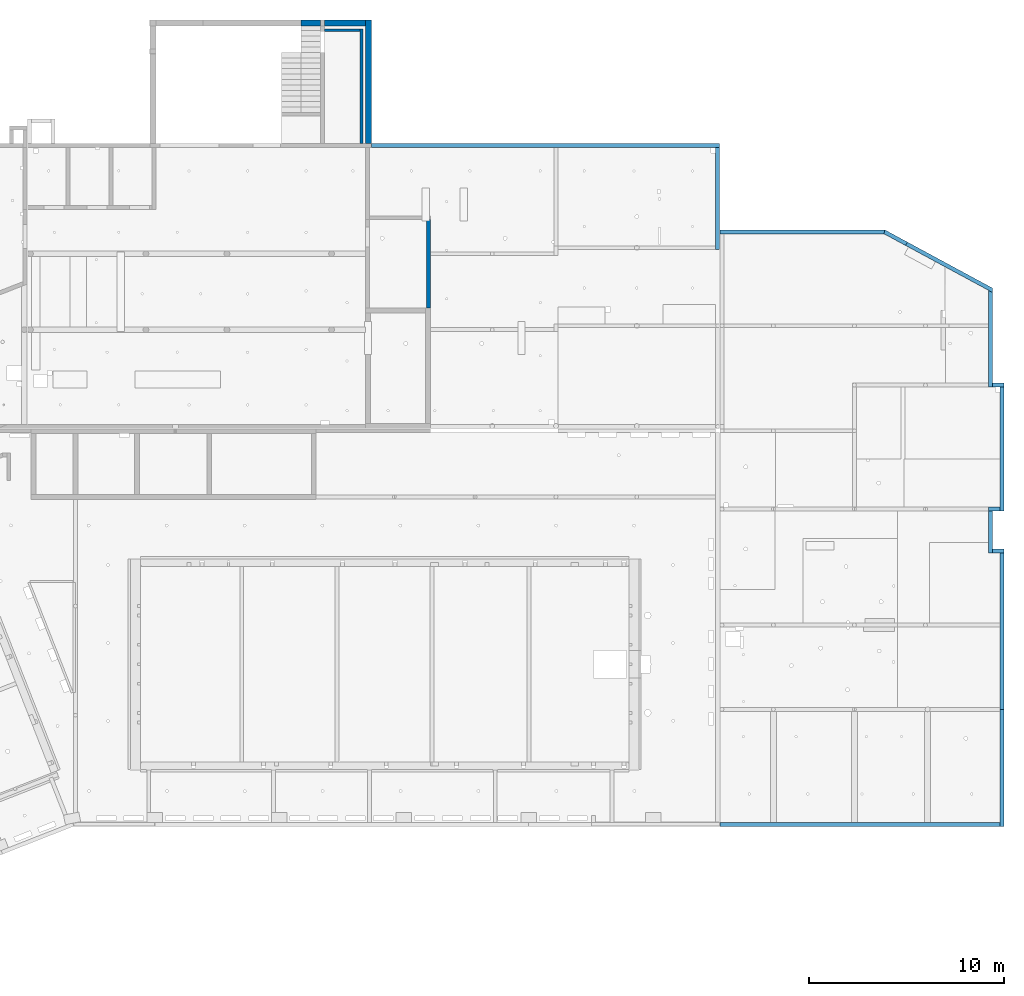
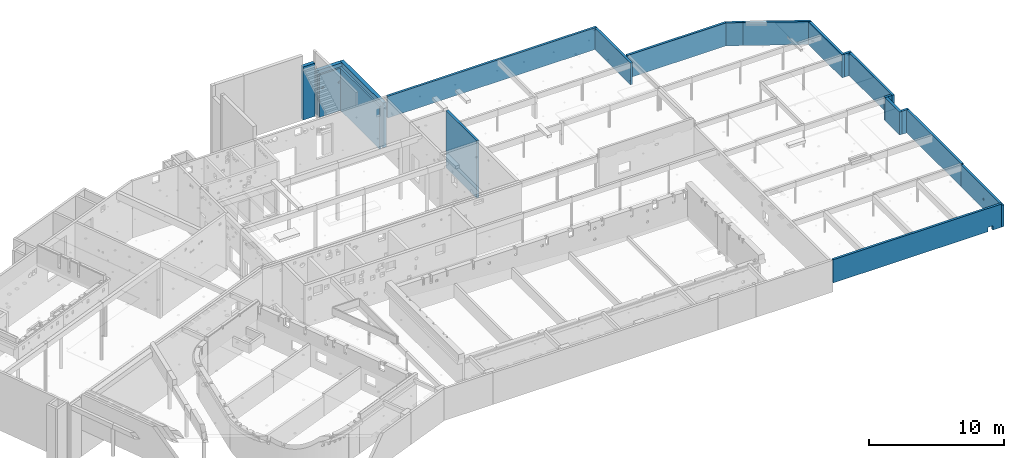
# One storey, part 27 of 28: 20 walls, 7 openings.
"""IFC2X3 building model written with IfcOpenShell, lengths in metres."""

from ifc_helpers import new_model, entity, si_unit, converted_unit, direction, frame, frame_2d, origin, origin_with_axes, place, context, subcontext, project, spatial, polyline, rectangle, outline, extrude, faceted_brep, material, layer, layer_set, layer_usage, element, save


model = new_model("IFC2X3")

# Units and contexts
model_context = context("Model", 3, precision=1e-05, world=origin(), true_north=direction((-0.407059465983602, -0.913401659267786)))
body_context = subcontext(model_context, "Body", "Model", "MODEL_VIEW")
ifc_project = project(units=[si_unit("LENGTHUNIT", "METRE"), si_unit("AREAUNIT", "SQUARE_METRE"), si_unit("VOLUMEUNIT", "CUBIC_METRE"), si_unit("MASSUNIT", "GRAM", prefix="KILO"), converted_unit("PLANEANGLEUNIT", "DEGREE", entity("IfcPlaneAngleMeasure", 0.0174532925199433), si_unit("PLANEANGLEUNIT", "RADIAN"), dimensions=[0, 0, 0, 0, 0, 0, 0])], contexts=[model_context])

# Site, buildings, storey
site_placement = place(None, origin())
site = spatial("IfcSite", under=ifc_project, at=site_placement, Name="Site", CompositionType="ELEMENT")
building_1_placement = place(site_placement, origin())
building_1 = spatial("IfcBuilding", under=site, at=building_1_placement, Name="Site", CompositionType="COMPLEX")
building_2_placement = place(building_1_placement, origin())
building_2 = spatial("IfcBuilding", under=building_1, at=building_2_placement, Name="Bâtiments", CompositionType="ELEMENT")
storey_placement = place(building_2_placement, frame((0.0, 0.0, -5.3)))
storey = spatial("IfcBuildingStorey", under=building_2, at=storey_placement, Name="SOUS-SOL", CompositionType="ELEMENT", Elevation=-5.3)

# Wall, openings
ifc_material_1 = material(Name="Béton")
ifc_layer_1 = layer(ifc_material_1, 0.3)
ifc_layer_set_1 = layer_set([ifc_layer_1])
ifc_layer_usage_1 = layer_usage(ifc_layer_set_1, "AXIS2", "POSITIVE", 0.0)
wall_1_placement = place(storey_placement, frame((45.2426440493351, 15.7502841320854, 0.5), z_axis=(0.0, 0.0, 1.0), x_axis=(-1.0, 2.58256597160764e-15, 0.0)))
wall_1 = element("IfcWallStandardCase", 1, at=wall_1_placement, inside=storey, material=ifc_layer_usage_1, context=body_context, shape_type="SweptSolid", body=[
    extrude(rectangle(XDim=2.11300244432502, YDim=0.3, at=frame_2d((1.05650122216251, 0.15), x_axis=(1.0, 0.0))), origin_with_axes(), (0.0, 0.0, 1.0), 4.03),
])
opening_1_placement = place(wall_1_placement, frame((1.71300244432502, 7.85963014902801e-16, 2.5), z_axis=(-2.27373675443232e-15, 1.0, 0.0), x_axis=(0.0, 0.0, 1.0)))
element("IfcOpeningElement", 2, at=opening_1_placement, cuts=wall_1, Name="TGBT", ObjectType="Opening", context=body_context, shape_type="SweptSolid", body=[
    extrude(outline(polyline([(0.0999999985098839, 0.2), (0.110452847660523, 0.199452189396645), (0.120791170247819, 0.197814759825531), (0.130901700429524, 0.195105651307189), (0.140673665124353, 0.191354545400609), (0.150000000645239, 0.186602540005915), (0.158778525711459, 0.180901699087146), (0.166913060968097, 0.174314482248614), (0.174314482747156, 0.166913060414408), (0.180901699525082, 0.15877852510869), (0.186602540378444, 0.15), (0.191354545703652, 0.140673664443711), (0.195105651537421, 0.130901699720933), (0.197814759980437, 0.120791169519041), (0.199452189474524, 0.110452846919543), (0.2, 0.100000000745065), (0.199452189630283, 0.0895471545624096), (0.19781476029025, 0.0792088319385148), (0.195105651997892, 0.0690983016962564), (0.191354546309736, 0.0593263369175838), (0.186602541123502, 0.0500000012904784), (0.18090170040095, 0.0412214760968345), (0.174314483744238, 0.0330869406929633), (0.166913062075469, 0.0256855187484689), (0.158778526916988, 0.0190983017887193), (0.150000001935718, 0.0133974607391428), (0.140673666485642, 0.00864545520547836), (0.130901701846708, 0.00489434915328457), (0.120791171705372, 0.00218524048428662), (0.110452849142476, 0.000547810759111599), (0.0999999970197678, 0.0), (0.0895471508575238, 0.000547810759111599), (0.0792088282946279, 0.00218524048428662), (0.0690982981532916, 0.00489434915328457), (0.0593263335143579, 0.00864545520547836), (0.0499999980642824, 0.0133974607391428), (0.0412214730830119, 0.0190983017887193), (0.0330869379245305, 0.0256855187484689), (0.0256855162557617, 0.0330869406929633), (0.0190982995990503, 0.0412214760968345), (0.0133974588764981, 0.0500000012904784), (0.00864545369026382, 0.0593263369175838), (0.00489434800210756, 0.0690983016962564), (0.00218523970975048, 0.0792088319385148), (0.000547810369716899, 0.0895471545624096), (0.0, 0.100000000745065), (0.000547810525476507, 0.110452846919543), (0.00218524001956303, 0.120791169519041), (0.00489434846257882, 0.130901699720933), (0.00864545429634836, 0.140673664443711), (0.0133974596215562, 0.15), (0.0190983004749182, 0.15877852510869), (0.025685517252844, 0.166913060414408), (0.0330869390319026, 0.174314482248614), (0.0412214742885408, 0.180901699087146), (0.0499999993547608, 0.186602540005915), (0.0593263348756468, 0.191354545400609), (0.0690982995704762, 0.195105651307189), (0.0792088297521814, 0.197814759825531), (0.0895471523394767, 0.199452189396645), (0.0999999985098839, 0.2)])), origin_with_axes(), (0.0, 0.0, 1.0), 0.3),
])
opening_2_placement = place(wall_1_placement, frame((0.298108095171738, 2.58887322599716e-15, 2.5), z_axis=(-2.65269288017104e-15, 1.0, 0.0), x_axis=(0.0, 0.0, 1.0)))
element("IfcOpeningElement", 3, at=opening_2_placement, cuts=wall_1, Name="TGBT", ObjectType="Opening", context=body_context, shape_type="SweptSolid", body=[
    extrude(outline(polyline([(0.0999999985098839, 0.2), (0.110452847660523, 0.199452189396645), (0.120791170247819, 0.197814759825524), (0.130901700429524, 0.195105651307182), (0.140673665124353, 0.191354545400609), (0.150000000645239, 0.186602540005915), (0.158778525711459, 0.180901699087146), (0.166913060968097, 0.174314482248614), (0.174314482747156, 0.166913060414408), (0.180901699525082, 0.15877852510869), (0.186602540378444, 0.150000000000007), (0.191354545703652, 0.140673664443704), (0.195105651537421, 0.130901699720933), (0.197814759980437, 0.120791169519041), (0.199452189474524, 0.110452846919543), (0.2, 0.100000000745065), (0.199452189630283, 0.0895471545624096), (0.19781476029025, 0.0792088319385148), (0.195105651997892, 0.0690983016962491), (0.191354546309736, 0.0593263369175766), (0.186602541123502, 0.0500000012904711), (0.18090170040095, 0.0412214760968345), (0.174314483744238, 0.0330869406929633), (0.166913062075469, 0.0256855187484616), (0.158778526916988, 0.0190983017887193), (0.150000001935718, 0.0133974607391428), (0.140673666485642, 0.00864545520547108), (0.130901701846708, 0.00489434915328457), (0.120791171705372, 0.00218524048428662), (0.110452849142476, 0.000547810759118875), (0.0999999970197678, 0.0), (0.0895471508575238, 0.000547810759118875), (0.0792088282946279, 0.00218524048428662), (0.0690982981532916, 0.00489434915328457), (0.0593263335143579, 0.00864545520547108), (0.0499999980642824, 0.0133974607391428), (0.0412214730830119, 0.0190983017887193), (0.0330869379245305, 0.0256855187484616), (0.0256855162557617, 0.0330869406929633), (0.0190982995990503, 0.0412214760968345), (0.0133974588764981, 0.0500000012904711), (0.00864545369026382, 0.0593263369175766), (0.00489434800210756, 0.0690983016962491), (0.00218523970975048, 0.0792088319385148), (0.000547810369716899, 0.0895471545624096), (0.0, 0.100000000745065), (0.000547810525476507, 0.110452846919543), (0.00218524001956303, 0.120791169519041), (0.00489434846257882, 0.130901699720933), (0.00864545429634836, 0.140673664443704), (0.0133974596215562, 0.150000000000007), (0.0190983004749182, 0.15877852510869), (0.025685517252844, 0.166913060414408), (0.0330869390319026, 0.174314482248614), (0.0412214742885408, 0.180901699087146), (0.0499999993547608, 0.186602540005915), (0.0593263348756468, 0.191354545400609), (0.0690982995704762, 0.195105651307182), (0.0792088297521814, 0.197814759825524), (0.0895471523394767, 0.199452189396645), (0.0999999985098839, 0.2)])), origin_with_axes(), (0.0, 0.0, 1.0), 0.3),
])

# Walls
ifc_material_2 = material(Name="Béton")
ifc_layer_2 = layer(ifc_material_2, 0.3)
ifc_layer_set_2 = layer_set([ifc_layer_2])
ifc_layer_usage_2 = layer_usage(ifc_layer_set_2, "AXIS2", "POSITIVE", 0.0)
wall_2_placement = place(storey_placement, frame((45.5426440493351, 9.41038730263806, 0.5), z_axis=(0.0, 0.0, 1.0), x_axis=(0.0, 1.0, 0.0)))
element("IfcWallStandardCase", 4, at=wall_2_placement, inside=storey, material=ifc_layer_usage_2, context=body_context, shape_type="SweptSolid", body=[
    extrude(rectangle(XDim=6.33989682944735, YDim=0.3, at=frame_2d((3.16994841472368, 0.15), x_axis=(1.0, 0.0))), origin_with_axes(), (0.0, 0.0, 1.0), 4.03),
])
ifc_material_3 = material(Name="Béton")
ifc_layer_3 = layer(ifc_material_3, 0.199999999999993)
ifc_layer_set_3 = layer_set([ifc_layer_3])
ifc_layer_usage_3 = layer_usage(ifc_layer_set_3, "AXIS2", "POSITIVE", -0.0999999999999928)
wall_3_placement = place(storey_placement, frame((48.364696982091, 5.4984652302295, 0.0), z_axis=(0.0, 0.0, 1.0), x_axis=(0.0, -1.0, 0.0)))
element("IfcWallStandardCase", 5, at=wall_3_placement, inside=storey, material=ifc_layer_usage_3, context=body_context, shape_type="SweptSolid", body=[
    extrude(rectangle(XDim=4.54465431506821, YDim=0.199999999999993, at=frame_2d((2.27232715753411, 0.0999999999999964), x_axis=(1.0, 0.0))), origin_with_axes(), (0.0, 0.0, 1.0), 5.16),
])
ifc_material_4 = material(Name="Béton")
ifc_layer_4 = layer(ifc_material_4, 0.200000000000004)
ifc_layer_set_4 = layer_set([ifc_layer_4])
ifc_layer_usage_4 = layer_usage(ifc_layer_set_4, "AXIS2", "POSITIVE", 0.0)
wall_4_placement = place(storey_placement, frame((63.413390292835, 9.41038730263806, 3.2), z_axis=(0.0, 0.0, 1.0), x_axis=(-1.0, 0.0, 0.0)))
element("IfcWallStandardCase", 6, at=wall_4_placement, inside=storey, material=ifc_layer_usage_4, context=body_context, shape_type="SweptSolid", body=[
    extrude(rectangle(XDim=17.8707462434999, YDim=0.200000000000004, at=frame_2d((8.93537312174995, 0.100000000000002), x_axis=(1.0, 0.0))), origin_with_axes(), (0.0, 0.0, 1.0), 1.96),
])
ifc_material_5 = material(Name="Béton")
ifc_layer_5 = layer(ifc_material_5, 0.2)
ifc_layer_set_5 = layer_set([ifc_layer_5])
ifc_layer_usage_5 = layer_usage(ifc_layer_set_5, "AXIS2", "POSITIVE", 0.0)
wall_5_placement = place(storey_placement, frame((63.4133901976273, 3.95588101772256, 3.2), z_axis=(0.0, 0.0, 1.0), x_axis=(1.745488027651e-08, 1.0, 0.0)))
element("IfcWallStandardCase", 7, at=wall_5_placement, inside=storey, material=ifc_layer_usage_5, context=body_context, shape_type="SweptSolid", body=[
    extrude(rectangle(XDim=5.25450628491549, YDim=0.2, at=frame_2d((2.62725314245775, 0.1), x_axis=(1.0, 0.0))), origin_with_axes(), (0.0, 0.0, 1.0), 1.96),
])
ifc_material_6 = material(Name="Béton")
ifc_layer_6 = layer(ifc_material_6, 0.200000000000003)
ifc_layer_set_6 = layer_set([ifc_layer_6])
ifc_layer_usage_6 = layer_usage(ifc_layer_set_6, "AXIS2", "POSITIVE", 0.0)
wall_6_placement = place(storey_placement, frame((71.8983119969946, 4.97380278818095, 3.2), z_axis=(0.0, 0.0, 1.0), x_axis=(-0.999999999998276, 1.85661073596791e-06, 0.0)))
element("IfcWallStandardCase", 8, at=wall_6_placement, inside=storey, material=ifc_layer_usage_6, context=body_context, shape_type="SweptSolid", body=[
    extrude(outline(polyline([(-8.46492141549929, -0.200015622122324), (3.71351151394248e-07, -0.200015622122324), (2.90042000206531e-11, -1.56221223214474e-05), (-8.4143229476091, -1.56221223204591e-05), (-8.46492141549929, -0.200015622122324)])), frame((8.46492141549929, 0.200015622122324, 0.0), z_axis=(0.0, 0.0, 1.0), x_axis=(1.0, 0.0, 0.0)), (0.0, 0.0, 1.0), 2.08),
])
ifc_material_7 = material(Name="Béton")
ifc_layer_7 = layer(ifc_material_7, 0.199999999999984)
ifc_layer_set_7 = layer_set([ifc_layer_7])
ifc_layer_usage_7 = layer_usage(ifc_layer_set_7, "AXIS2", "POSITIVE", 0.0)
wall_7_placement = place(storey_placement, frame((73.0537295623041, 4.34919874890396, 3.2), z_axis=(0.0, 0.0, 1.0), x_axis=(-0.879689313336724, 0.475548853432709, 0.0)))
element("IfcWallStandardCase", 9, at=wall_7_placement, inside=storey, material=ifc_layer_usage_7, context=body_context, shape_type="SweptSolid", body=[
    extrude(outline(polyline([(-0.97725269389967, -0.728290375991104), (0.336185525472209, -0.728290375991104), (0.28558705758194, -0.52829037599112), (-0.977252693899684, -0.528290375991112), (-0.97725269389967, -0.728290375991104)])), frame((0.97725269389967, 0.728290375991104, 0.0), z_axis=(0.0, 0.0, 1.0), x_axis=(1.0, 0.0, 0.0)), (0.0, 0.0, 1.0), 2.08),
])
ifc_material_8 = material(Name="Béton")
ifc_layer_8 = layer(ifc_material_8, 0.199999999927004)
ifc_layer_set_8 = layer_set([ifc_layer_8])
ifc_layer_usage_8 = layer_usage(ifc_layer_set_8, "AXIS2", "POSITIVE", 0.0)
wall_8_placement = place(storey_placement, frame((77.4132549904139, -3.09534254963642, 3.2), z_axis=(0.0, 0.0, 1.0), x_axis=(1.26621233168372e-08, 1.0, 0.0)))
element("IfcWallStandardCase", 10, at=wall_8_placement, inside=storey, material=ifc_layer_usage_8, context=body_context, shape_type="SweptSolid", body=[
    extrude(outline(polyline([(2.53242386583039e-09, -0.199999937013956), (4.86048427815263, -0.199999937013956), (4.96860173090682, 6.29130478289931e-08), (6.52187482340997e-08, -2.32637020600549e-09), (2.53242386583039e-09, -0.199999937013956)])), frame((-2.53242386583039e-09, 0.199999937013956, 0.0), z_axis=(0.0, 0.0, 1.0), x_axis=(1.0, 0.0, 0.0)), (0.0, 0.0, 1.0), 2.08),
])
ifc_material_9 = material(Name="Béton")
ifc_layer_9 = layer(ifc_material_9, 0.200000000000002)
ifc_layer_set_9 = layer_set([ifc_layer_9])
ifc_layer_usage_9 = layer_usage(ifc_layer_set_9, "AXIS2", "POSITIVE", 0.0)
wall_9_placement = place(storey_placement, frame((78.0131115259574, -2.89534274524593, 3.2), z_axis=(0.0, 0.0, 1.0), x_axis=(-0.999999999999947, 3.26093848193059e-07, 0.0)))
element("IfcWallStandardCase", 11, at=wall_9_placement, inside=storey, material=ifc_layer_usage_9, context=body_context, shape_type="SweptSolid", body=[
    extrude(outline(polyline([(-0.599856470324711, -0.200000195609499), (5.97551714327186e-14, -0.200000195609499), (6.378705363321e-14, -1.95609497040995e-07), (-0.599856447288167, -1.95609497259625e-07), (-0.599856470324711, -0.200000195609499)])), frame((0.599856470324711, 0.200000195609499, 0.0), z_axis=(0.0, 0.0, 1.0), x_axis=(1.0, 0.0, 0.0)), (0.0, 0.0, 1.0), 2.08),
])
ifc_material_10 = material(Name="Béton")
ifc_layer_10 = layer(ifc_material_10, 0.200000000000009)
ifc_layer_set_10 = layer_set([ifc_layer_10])
ifc_layer_usage_10 = layer_usage(ifc_layer_set_10, "AXIS2", "POSITIVE", 0.0)
wall_10_placement = place(storey_placement, frame((78.013108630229, -9.45750503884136, 3.2), z_axis=(0.0, 0.0, 1.0), x_axis=(4.41276569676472e-07, 0.999999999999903, 0.0)))
element("IfcWallStandardCase", 12, at=wall_10_placement, inside=storey, material=ifc_layer_usage_10, context=body_context, shape_type="SweptSolid", body=[
    extrude(outline(polyline([(8.82553139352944e-08, -0.199999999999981), (6.36216238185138, -0.199999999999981), (6.36216235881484, 2.87795147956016e-14), (6.52187700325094e-08, 2.87795151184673e-14), (8.82553139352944e-08, -0.199999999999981)])), frame((-8.82553139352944e-08, 0.199999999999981, 0.0), z_axis=(0.0, 0.0, 1.0), x_axis=(1.0, 0.0, 0.0)), (0.0, 0.0, 1.0), 2.08),
])
ifc_material_11 = material(Name="Béton")
wall_11_placement = place(storey_placement, frame((77.2128508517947, -9.45750497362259, 3.2)))
element("IfcWall", 13, at=wall_11_placement, inside=storey, material=ifc_material_11, context=body_context, shape_type="Brep", body=[
    faceted_brep([(6.42770755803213e-08, 0.00035970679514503, 2.06), (0.000408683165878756, 0.000359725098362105, 2.06), (0.000399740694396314, 0.200000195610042, 2.06), (3.57580584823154e-05, 0.200000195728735, 2.06), (3.57580584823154e-05, 0.200000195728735, 1.56), (0.000399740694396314, 0.200000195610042, 1.56), (0.000408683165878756, 0.000359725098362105, 1.56), (6.42770755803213e-08, 0.00035970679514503, 1.56), (3.57580584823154e-05, 0.200000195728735, 0.0), (0.600257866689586, 0.199999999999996, 0.0), (0.600257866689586, 0.199999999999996, 2.08), (3.57580584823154e-05, 0.200000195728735, 2.08), (0.600257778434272, 0.0, 0.0), (0.600257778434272, 0.0, 2.08), (-1.45519152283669e-14, 1.95740371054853e-07, 0.0), (-1.45519152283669e-14, 1.95740371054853e-07, 2.08)], [[[0, 1, 2, 3]], [[4, 5, 6, 7]], [[0, 7, 6, 1]], [[1, 6, 5, 2]], [[2, 5, 4, 8, 9, 10, 11, 3]], [[9, 12, 13, 10]], [[12, 14, 15, 13]], [[3, 11, 15, 14, 8, 4, 7, 0]], [[15, 11, 10, 13]], [[8, 14, 12, 9]]], orient=[[False], [False], [False], [False], [False], [False], [False], [False], [False], [False]]),
])
ifc_material_12 = material(Name="Béton")
ifc_layer_11 = layer(ifc_material_12, 0.200000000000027)
ifc_layer_set_11 = layer_set([ifc_layer_11])
ifc_layer_usage_11 = layer_usage(ifc_layer_set_11, "AXIS2", "POSITIVE", 0.0)
wall_12_placement = place(storey_placement, frame((77.4124657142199, -11.611652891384, 3.2), z_axis=(0.0, 0.0, 1.0), x_axis=(0.000178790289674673, 0.999999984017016, 0.0)))
element("IfcWallStandardCase", 14, at=wall_12_placement, inside=storey, material=ifc_layer_usage_11, context=body_context, shape_type="SweptSolid", body=[
    extrude(outline(polyline([(3.57580585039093e-05, -0.199999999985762), (2.15418384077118, -0.199999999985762), (2.15414814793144, 1.42652759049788e-11), (7.97430535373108e-08, 1.42572838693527e-11), (3.57580585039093e-05, -0.199999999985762)])), frame((-3.57580585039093e-05, 0.199999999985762, 0.0), z_axis=(0.0, 0.0, 1.0), x_axis=(1.0, 0.0, 0.0)), (0.0, 0.0, 1.0), 2.08),
])
ifc_material_13 = material(Name="Béton")
ifc_layer_12 = layer(ifc_material_13, 0.200000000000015)
ifc_layer_set_12 = layer_set([ifc_layer_12])
ifc_layer_usage_12 = layer_usage(ifc_layer_set_12, "AXIS2", "POSITIVE", 0.0)
wall_13_placement = place(storey_placement, frame((78.0131079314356, -11.4116531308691, 3.2), z_axis=(0.0, 0.0, 1.0), x_axis=(-0.999999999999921, 3.98715266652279e-07, 0.0)))
element("IfcWallStandardCase", 15, at=wall_13_placement, inside=storey, material=ifc_layer_usage_12, context=body_context, shape_type="SweptSolid", body=[
    extrude(outline(polyline([(-0.60064213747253, -0.2000002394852), (-3.56783153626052e-05, -0.2000002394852), (9.54863995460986e-14, -2.39485185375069e-07), (-0.600642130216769, -2.39485187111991e-07), (-0.60064213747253, -0.2000002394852)])), frame((0.60064213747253, 0.2000002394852, 0.0), z_axis=(0.0, 0.0, 1.0), x_axis=(1.0, 0.0, 0.0)), (0.0, 0.0, 1.0), 2.08),
])
ifc_material_14 = material(Name="Béton")
ifc_layer_13 = layer(ifc_material_14, 0.200000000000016)
ifc_layer_set_13 = layer_set([ifc_layer_13])
ifc_layer_usage_13 = layer_usage(ifc_layer_set_13, "AXIS2", "POSITIVE", 0.0)
wall_14_placement = place(storey_placement, frame((78.0131043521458, -19.6400174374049, 3.2), z_axis=(0.0, 0.0, 1.0), x_axis=(4.34994075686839e-07, 0.999999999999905, 0.0)))
element("IfcWallStandardCase", 16, at=wall_14_placement, inside=storey, material=ifc_layer_usage_13, context=body_context, shape_type="SweptSolid", body=[
    extrude(rectangle(XDim=8.0283643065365, YDim=0.200000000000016, at=frame_2d((4.01418215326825, 0.100000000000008), x_axis=(1.0, 0.0))), origin_with_axes(), (0.0, 0.0, 1.0), 2.08),
])

# Wall, openings
ifc_material_15 = material(Name="Mur_Maconnerie")
ifc_layer_14 = layer(ifc_material_15, 0.15)
ifc_layer_set_14 = layer_set([ifc_layer_14])
ifc_layer_usage_14 = layer_usage(ifc_layer_set_14, "AXIS2", "POSITIVE", -0.15)
wall_15_placement = place(storey_placement, frame((43.1296416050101, 15.1502841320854, 0.5), z_axis=(0.0, 0.0, 1.0), x_axis=(1.0, 2.00660446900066e-15, 0.0)))
wall_15 = element("IfcWallStandardCase", 17, at=wall_15_placement, inside=storey, material=ifc_layer_usage_14, context=body_context, shape_type="SweptSolid", body=[
    extrude(rectangle(XDim=1.81300244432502, YDim=0.15, at=frame_2d((0.906501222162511, 0.075), x_axis=(1.0, 0.0))), origin_with_axes(), (0.0, 0.0, 1.0), 3.83),
])
opening_3_placement = place(wall_15_placement, frame((0.397962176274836, 0.149999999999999, 2.5), z_axis=(-1.8947806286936e-15, -1.0, 0.0), x_axis=(0.0, 0.0, 1.0)))
element("IfcOpeningElement", 18, at=opening_3_placement, cuts=wall_15, Name="Percement dans mur", ObjectType="Opening", context=body_context, shape_type="SweptSolid", body=[
    extrude(outline(polyline([(0.0999999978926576, 0.2), (0.110452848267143, 0.199452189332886), (0.120791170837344, 0.197814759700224), (0.130901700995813, 0.195105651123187), (0.14067366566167, 0.191354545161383), (0.150000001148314, 0.186602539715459), (0.15877852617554, 0.180901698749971), (0.166913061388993, 0.174314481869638), (0.174314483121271, 0.166913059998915), (0.180901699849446, 0.158778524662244), (0.186602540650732, 0.149999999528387), (0.191354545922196, 0.140673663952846), (0.195105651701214, 0.130901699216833), (0.197814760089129, 0.120791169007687), (0.19945218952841, 0.110452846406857), (0.2, 0.100000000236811), (0.199452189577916, 0.0895471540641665), (0.197814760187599, 0.0792088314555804), (0.195105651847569, 0.0690983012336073), (0.191354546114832, 0.0593263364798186), (0.186602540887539, 0.0500000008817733), (0.180901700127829, 0.0412214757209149), (0.174314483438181, 0.0330869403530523), (0.166913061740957, 0.0256855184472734), (0.158778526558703, 0.0190983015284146), (0.150000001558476, 0.0133974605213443), (0.140673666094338, 0.00864545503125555), (0.130901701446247, 0.00489434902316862), (0.120791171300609, 0.00218524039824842), (0.110452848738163, 0.000547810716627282), (0.0999999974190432, 0.0), (0.0895471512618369, 0.000547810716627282), (0.0792088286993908, 0.00218524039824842), (0.069098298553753, 0.00489434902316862), (0.0593263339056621, 0.00864545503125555), (0.0499999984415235, 0.0133974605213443), (0.0412214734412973, 0.0190983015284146), (0.0330869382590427, 0.0256855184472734), (0.0256855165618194, 0.0330869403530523), (0.0190982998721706, 0.0412214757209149), (0.0133974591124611, 0.0500000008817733), (0.00864545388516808, 0.0593263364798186), (0.00489434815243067, 0.0690983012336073), (0.00218523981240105, 0.0792088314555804), (0.00054781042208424, 0.0895471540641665), (0.0, 0.100000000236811), (0.00054781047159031, 0.110452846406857), (0.00218523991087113, 0.120791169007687), (0.00489434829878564, 0.130901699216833), (0.00864545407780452, 0.140673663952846), (0.013397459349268, 0.149999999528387), (0.0190983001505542, 0.158778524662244), (0.0256855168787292, 0.166913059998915), (0.0330869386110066, 0.174314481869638), (0.0412214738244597, 0.180901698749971), (0.0499999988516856, 0.186602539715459), (0.0593263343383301, 0.191354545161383), (0.0690982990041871, 0.195105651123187), (0.0792088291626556, 0.197814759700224), (0.0895471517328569, 0.199452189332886), (0.0999999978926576, 0.2)])), origin_with_axes(), (0.0, 0.0, 1.0), 0.15),
])
opening_4_placement = place(wall_15_placement, frame((1.81300244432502, 0.15, 2.5), z_axis=(-1.51582450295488e-15, -1.0, 0.0), x_axis=(0.0, 0.0, 1.0)))
element("IfcOpeningElement", 19, at=opening_4_placement, cuts=wall_15, Name="Percement dans mur", ObjectType="Opening", context=body_context, shape_type="SweptSolid", body=[
    extrude(outline(polyline([(0.0999999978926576, 0.2), (0.110452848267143, 0.199452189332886), (0.120791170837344, 0.197814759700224), (0.130901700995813, 0.195105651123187), (0.14067366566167, 0.191354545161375), (0.150000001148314, 0.186602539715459), (0.15877852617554, 0.180901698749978), (0.166913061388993, 0.174314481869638), (0.174314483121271, 0.166913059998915), (0.180901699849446, 0.158778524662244), (0.186602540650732, 0.149999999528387), (0.191354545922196, 0.140673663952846), (0.195105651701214, 0.130901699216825), (0.197814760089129, 0.120791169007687), (0.19945218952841, 0.110452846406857), (0.2, 0.100000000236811), (0.199452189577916, 0.0895471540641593), (0.197814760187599, 0.0792088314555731), (0.195105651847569, 0.0690983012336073), (0.191354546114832, 0.0593263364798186), (0.186602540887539, 0.0500000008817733), (0.180901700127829, 0.0412214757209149), (0.174314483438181, 0.0330869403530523), (0.166913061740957, 0.0256855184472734), (0.158778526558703, 0.0190983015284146), (0.150000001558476, 0.0133974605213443), (0.140673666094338, 0.00864545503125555), (0.130901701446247, 0.00489434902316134), (0.120791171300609, 0.00218524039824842), (0.110452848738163, 0.000547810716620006), (0.0999999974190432, 0.0), (0.0895471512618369, 0.000547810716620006), (0.0792088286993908, 0.00218524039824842), (0.069098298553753, 0.00489434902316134), (0.0593263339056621, 0.00864545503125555), (0.0499999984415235, 0.0133974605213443), (0.0412214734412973, 0.0190983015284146), (0.0330869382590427, 0.0256855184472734), (0.0256855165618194, 0.0330869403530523), (0.0190982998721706, 0.0412214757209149), (0.0133974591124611, 0.0500000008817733), (0.00864545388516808, 0.0593263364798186), (0.00489434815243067, 0.0690983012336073), (0.00218523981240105, 0.0792088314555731), (0.00054781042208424, 0.0895471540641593), (0.0, 0.100000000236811), (0.00054781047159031, 0.110452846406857), (0.00218523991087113, 0.120791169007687), (0.00489434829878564, 0.130901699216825), (0.00864545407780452, 0.140673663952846), (0.013397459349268, 0.149999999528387), (0.0190983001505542, 0.158778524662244), (0.0256855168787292, 0.166913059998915), (0.0330869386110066, 0.174314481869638), (0.0412214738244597, 0.180901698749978), (0.0499999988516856, 0.186602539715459), (0.0593263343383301, 0.191354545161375), (0.0690982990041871, 0.195105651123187), (0.0792088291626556, 0.197814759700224), (0.0895471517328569, 0.199452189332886), (0.0999999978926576, 0.2)])), origin_with_axes(), (0.0, 0.0, 1.0), 0.15),
])

# Walls
ifc_material_16 = material(Name="Mur_Maconnerie")
ifc_layer_15 = layer(ifc_material_16, 0.15)
ifc_layer_set_15 = layer_set([ifc_layer_15])
ifc_layer_usage_15 = layer_usage(ifc_layer_set_15, "AXIS2", "POSITIVE", -0.15)
wall_16_placement = place(storey_placement, frame((44.9426440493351, 15.3002841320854, 0.5), z_axis=(0.0, 0.0, 1.0), x_axis=(0.0, -1.0, 0.0)))
element("IfcWallStandardCase", 20, at=wall_16_placement, inside=storey, material=ifc_layer_usage_15, context=body_context, shape_type="SweptSolid", body=[
    extrude(rectangle(XDim=5.88989682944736, YDim=0.15, at=frame_2d((2.94494841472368, 0.075), x_axis=(1.0, 0.0))), origin_with_axes(), (0.0, 0.0, 1.0), 3.83),
])
ifc_material_17 = material(Name="Béton")
ifc_layer_16 = layer(ifc_material_17, 0.199999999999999)
ifc_layer_set_16 = layer_set([ifc_layer_16])
ifc_layer_usage_16 = layer_usage(ifc_layer_set_16, "AXIS2", "POSITIVE", 0.0)
wall_17_placement = place(storey_placement, frame((77.4132550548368, 1.99249471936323, 3.2), z_axis=(0.0, 0.0, 1.0), x_axis=(-0.879689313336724, 0.475548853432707, 0.0)))
element("IfcWallStandardCase", 21, at=wall_17_placement, inside=storey, material=ifc_layer_usage_16, context=body_context, shape_type="SweptSolid", body=[
    extrude(outline(polyline([(-3.8105775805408, -2.31839669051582), (1.14517830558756, -2.31839669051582), (1.14517830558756, -2.11839669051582), (-3.91869503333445, -2.11839669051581), (-3.8105775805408, -2.31839669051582)])), frame((3.8105775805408, 2.31839669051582, 0.0), z_axis=(0.0, 0.0, 1.0), x_axis=(1.0, 0.0, 0.0)), (0.0, 0.0, 1.0), 2.08),
])
ifc_material_18 = material(Name="Béton")
ifc_layer_17 = layer(ifc_material_18, 0.3)
ifc_layer_set_17 = layer_set([ifc_layer_17])
ifc_layer_usage_17 = layer_usage(ifc_layer_set_17, "AXIS2", "POSITIVE", -0.25)
wall_18_placement = place(storey_placement, frame((42.9296416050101, 15.7502841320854, 0.5), z_axis=(0.0, 0.0, 1.0), x_axis=(-1.0, 0.0, 0.0)))
element("IfcWallStandardCase", 22, at=wall_18_placement, inside=storey, material=ifc_layer_usage_17, context=body_context, shape_type="SweptSolid", body=[
    extrude(rectangle(XDim=1.0, YDim=0.3, at=frame_2d((0.5, 0.15), x_axis=(1.0, 0.0))), origin_with_axes(), (0.0, 0.0, 1.0), 4.8),
])

# Wall, openings
ifc_material_19 = material(Name="Béton")
ifc_layer_18 = layer(ifc_material_19, 0.200000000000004)
ifc_layer_set_18 = layer_set([ifc_layer_18])
ifc_layer_usage_18 = layer_usage(ifc_layer_set_18, "AXIS2", "POSITIVE", 0.0)
wall_19_placement = place(storey_placement, frame((78.0131017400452, -25.6449283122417, 3.2), z_axis=(0.0, 0.0, 1.0), x_axis=(4.34994075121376e-07, 0.999999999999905, 0.0)))
wall_19 = element("IfcWallStandardCase", 23, at=wall_19_placement, inside=storey, material=ifc_layer_usage_18, context=body_context, shape_type="SweptSolid", body=[
    extrude(outline(polyline([(8.69988150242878e-08, -0.20000000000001), (6.00491096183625, -0.20000000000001), (6.00491096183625, -5.8117768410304e-15), (2.83398549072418e-11, 1.23276689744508e-17), (8.69988150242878e-08, -0.20000000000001)])), frame((-8.69988150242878e-08, 0.20000000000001, 0.0), z_axis=(0.0, 0.0, 1.0), x_axis=(1.0, 0.0, 0.0)), (0.0, 0.0, 1.0), 1.98),
])
opening_5_placement = place(wall_19_placement, frame((1.79965039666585, 0.200000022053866, 0.45), z_axis=(2.04636307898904e-14, -1.0, 0.0), x_axis=(0.0, 0.0, 1.0)))
element("IfcOpeningElement", 24, at=opening_5_placement, cuts=wall_19, Name="PB-118", ObjectType="Opening", context=body_context, shape_type="SweptSolid", body=[
    extrude(outline(polyline([(0.0, 0.250000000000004), (0.25, 0.250000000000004), (0.25, 0.0), (0.0, 0.0), (0.0, 0.250000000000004)])), origin_with_axes(), (0.0, 0.0, 1.0), 0.200000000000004),
])
opening_6_placement = place(wall_19_placement, frame((2.78895119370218, 0.200000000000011, 0.81), z_axis=(0.0, 0.0, 1.0), x_axis=(-1.0, -2.2168850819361e-14, 0.0)))
element("IfcOpeningElement", 25, at=opening_6_placement, cuts=wall_19, Name="PB-115", ObjectType="Opening", context=body_context, shape_type="SweptSolid", body=[
    extrude(outline(polyline([(0.0, 0.0), (0.200000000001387, -3.76059354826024e-15), (0.200000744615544, 0.200000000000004), (7.44614157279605e-07, 0.200000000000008), (0.0, 0.0)])), origin_with_axes(), (0.0, 0.0, 1.0), 0.2),
])

# Wall, opening
ifc_material_20 = material(Name="Béton")
ifc_layer_19 = layer(ifc_material_20, 0.200000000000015)
ifc_layer_set_19 = layer_set([ifc_layer_19])
ifc_layer_usage_19 = layer_usage(ifc_layer_set_19, "AXIS2", "POSITIVE", 0.0)
wall_20_placement = place(storey_placement, frame((63.4332840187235, -25.6449283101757, 3.2), z_axis=(0.0, 0.0, 1.0), x_axis=(1.0, -1.41706889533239e-10, 0.0)))
wall_20 = element("IfcWallStandardCase", 26, at=wall_20_placement, inside=storey, material=ifc_layer_usage_19, context=body_context, shape_type="SweptSolid", body=[
    extrude(outline(polyline([(-2.88758855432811e-19, 2.03771924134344e-09), (14.3798177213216, 2.03771924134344e-09), (14.3798178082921, 0.200000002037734), (-2.83413781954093e-11, 0.200000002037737), (-2.88758855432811e-19, 2.03771924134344e-09)])), frame((2.88758855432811e-19, -2.03771924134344e-09, 0.0), z_axis=(0.0, 0.0, 1.0), x_axis=(1.0, 0.0, 0.0)), (0.0, 0.0, 1.0), 2.1),
])
opening_7_placement = place(wall_20_placement, frame((13.2240335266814, 2.6170920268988e-08, 0.0), z_axis=(0.0, 0.0, 1.0), x_axis=(0.999999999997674, -2.15682572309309e-06, 0.0)))
element("IfcOpeningElement", 27, at=opening_7_placement, cuts=wall_20, Name="PB-123", ObjectType="Opening", context=body_context, shape_type="SweptSolid", body=[
    extrude(outline(polyline([(0.0, 0.0), (0.399999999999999, 1.0842021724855e-22), (0.400000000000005, 0.200000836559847), (3.69809575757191e-15, 0.199999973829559), (0.0, 0.0)])), origin_with_axes(), (0.0, 0.0, 1.0), 0.4),
])

save(model, "model.ifc")
